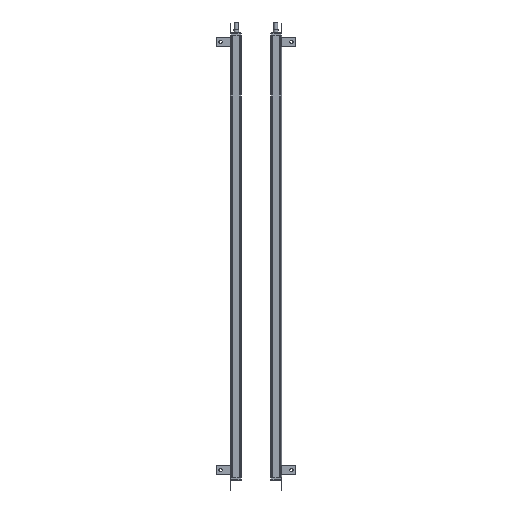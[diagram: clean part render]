
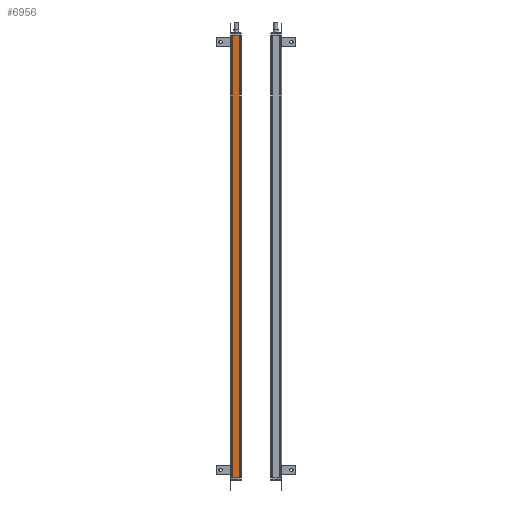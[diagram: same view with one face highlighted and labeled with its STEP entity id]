
A CAD part, left-side view. The second image highlights one B-rep face of the part: STEP entity #6956.
In plain terms, the highlighted planar face has unit normal (-1, 0, 0).
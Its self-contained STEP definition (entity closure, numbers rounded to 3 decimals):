
#953=FACE_OUTER_BOUND('',#9034,.T.);
#2188=LINE('',#33710,#4326);
#2290=LINE('',#34050,#4428);
#2291=LINE('',#34052,#4429);
#2292=LINE('',#34054,#4430);
#4326=VECTOR('',#26897,1.);
#4428=VECTOR('',#27185,1.);
#4429=VECTOR('',#27188,1.);
#4430=VECTOR('',#27189,1.);
#6178=PLANE('',#23723);
#6956=ADVANCED_FACE('',(#953),#6178,.T.);
#9034=EDGE_LOOP('',(#11681,#11682,#11683,#11684));
#11681=ORIENTED_EDGE('',*,*,#19828,.F.);
#11682=ORIENTED_EDGE('',*,*,#19829,.T.);
#11683=ORIENTED_EDGE('',*,*,#19830,.T.);
#11684=ORIENTED_EDGE('',*,*,#19658,.F.);
#17203=VERTEX_POINT('',#33709);
#17204=VERTEX_POINT('',#33711);
#17348=VERTEX_POINT('',#34049);
#17349=VERTEX_POINT('',#34053);
#19658=EDGE_CURVE('',#17203,#17204,#2188,.T.);
#19828=EDGE_CURVE('',#17348,#17203,#2290,.T.);
#19829=EDGE_CURVE('',#17348,#17349,#2291,.T.);
#19830=EDGE_CURVE('',#17349,#17204,#2292,.T.);
#23723=AXIS2_PLACEMENT_3D('',#34055,#27190,#27191);
#26897=DIRECTION('',(0.,-1.,0.));
#27185=DIRECTION('',(0.,0.,1.));
#27188=DIRECTION('',(0.,-1.,0.));
#27189=DIRECTION('',(0.,0.,1.));
#27190=DIRECTION('',(-1.,0.,0.));
#27191=DIRECTION('',(0.,-1.,0.));
#33709=CARTESIAN_POINT('',(233.846,104.141,31.645));
#33710=CARTESIAN_POINT('',(233.846,81.141,31.645));
#33711=CARTESIAN_POINT('',(233.846,81.141,31.645));
#34049=CARTESIAN_POINT('',(233.846,104.141,-1423.355));
#34050=CARTESIAN_POINT('',(233.846,104.141,-155.355));
#34052=CARTESIAN_POINT('',(233.846,81.141,-1423.355));
#34053=CARTESIAN_POINT('',(233.846,81.141,-1423.355));
#34054=CARTESIAN_POINT('',(233.846,81.141,-155.355));
#34055=CARTESIAN_POINT('',(233.846,81.141,-50.355));
